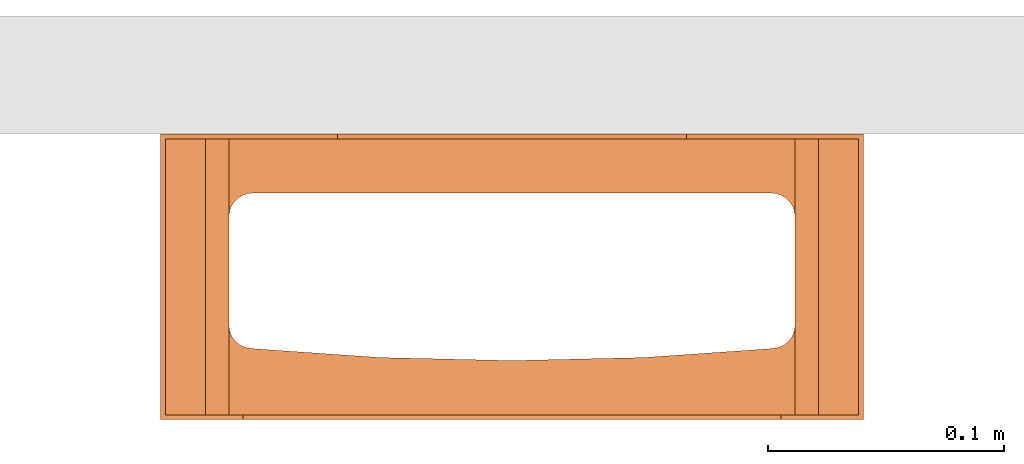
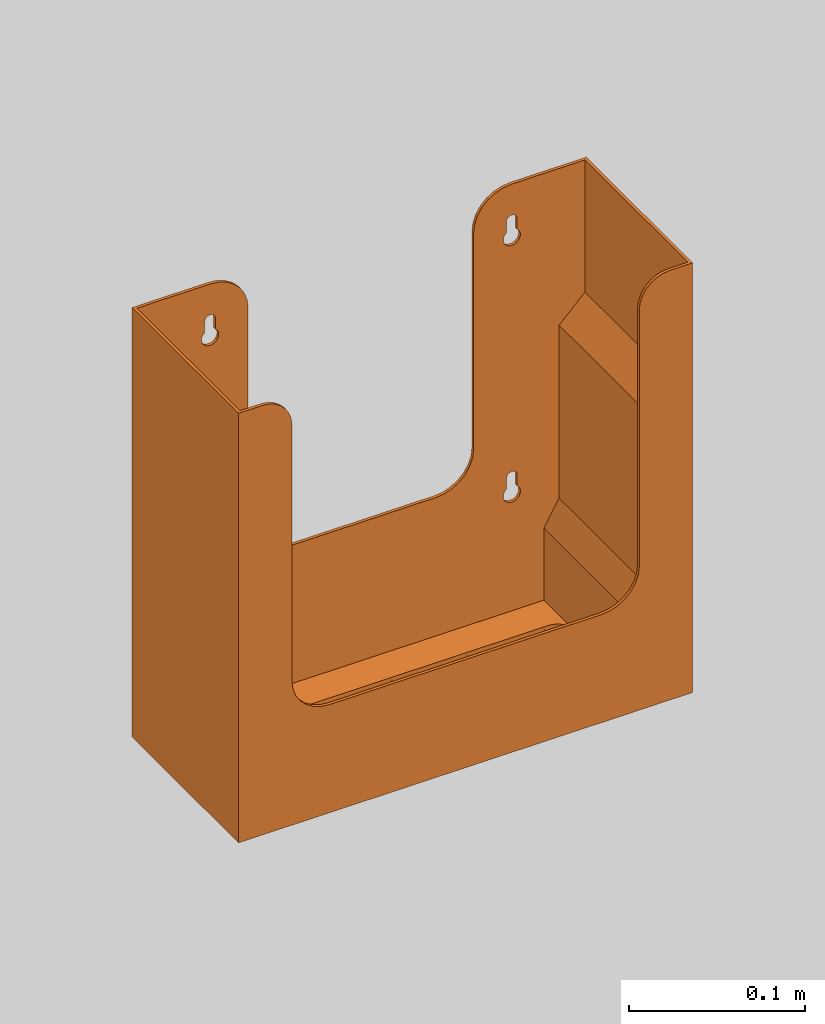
# One storey, part 2 of 2: 1 proxy, 1 opening.
"""IFC2X3 building model written with IfcOpenShell, lengths in millimetres."""

from ifc_helpers import new_model, entity, si_unit, converted_unit, derived_unit, direction, frame, frame_2d, origin, place, context, subcontext, project, spatial, polyline, circle_curve, parameter, trimmed, segment, composite_curve, outline, extrude, source, transform, mapped, element, save


model = new_model("IFC2X3")

# Units and contexts
model_context = context("Model", 3, precision=1e-05, world=origin(), true_north=direction((2.0, 6.12303176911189e-17, 1.0)))
context_of_model = context(None, 3, precision=1e-05, world=origin(), true_north=direction((2.0, 6.12303176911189e-17, 1.0)))
body_context = subcontext(model_context, "Body", "Model", "MODEL_VIEW")
ifc_project = project(units=[si_unit("LENGTHUNIT", "METRE", prefix="MILLI"), si_unit("AREAUNIT", "SQUARE_METRE"), si_unit("VOLUMEUNIT", "CUBIC_METRE"), converted_unit("PLANEANGLEUNIT", "DEGREE", entity("IfcRatioMeasure", 0.0174532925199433), si_unit("PLANEANGLEUNIT", "RADIAN"), dimensions=[0, 0, 0, 0, 0, 0, 0]), si_unit("MASSUNIT", "GRAM", prefix="KILO"), si_unit("TIMEUNIT", "SECOND"), si_unit("THERMODYNAMICTEMPERATUREUNIT", "KELVIN"), derived_unit("THERMALTRANSMITTANCEUNIT", [(si_unit("MASSUNIT", "GRAM", prefix="KILO"), 1), (si_unit("THERMODYNAMICTEMPERATUREUNIT", "KELVIN"), -1), (si_unit("TIMEUNIT", "SECOND"), -3)]), derived_unit("VOLUMETRICFLOWRATEUNIT", [(si_unit("LENGTHUNIT", "METRE"), 3), (si_unit("TIMEUNIT", "SECOND"), -1)]), si_unit("POWERUNIT", "WATT")], contexts=[model_context, context_of_model])

# Site, building, storey
site_placement = place(None, origin())
site = spatial("IfcSite", under=ifc_project, at=site_placement, Name="Default", CompositionType="ELEMENT")
building_placement = place(site_placement, origin())
building = spatial("IfcBuilding", under=site, at=building_placement, CompositionType="ELEMENT")
storey_placement = place(building_placement, origin())
storey = spatial("IfcBuildingStorey", under=building, at=storey_placement, Name="Level 1", CompositionType="ELEMENT", Elevation=0.0)

# Proxy, opening
shared_shape = source(origin(), body_context, "Body", "SweptSolid", [
    extrude(outline(polyline([(-84.825972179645, -12.3314362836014), (-34.8259721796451, -12.3314362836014), (-17.5054641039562, -2.33143628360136), (102.494535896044, -2.33143628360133), (119.488844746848, 14.6628725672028), (-84.825972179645, 14.6628725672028), (-84.825972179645, -12.3314362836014)])), frame((132.331436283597, -120.0, 89.829704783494), z_axis=(0.0, 1.0, 0.0), x_axis=(0.0, 0.0, 1.0)), (0.0, 0.0, 1.0), 120.0),
    extrude(outline(polyline([(-12.3314362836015, -84.8259721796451), (14.6628725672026, -84.8259721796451), (14.6628725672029, 119.488844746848), (-2.33143628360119, 102.494535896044), (-2.33143628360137, -17.5054641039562), (-12.3314362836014, -34.825972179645), (-12.3314362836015, -84.8259721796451)])), frame((-132.331436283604, -120.0, 89.8297047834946), z_axis=(0.0, 1.0, 0.0), x_axis=(-1.0, 0.0, 0.0)), (0.0, 0.0, 1.0), 120.0),
    extrude(outline(composite_curve([segment(trimmed(circle_curve(frame_2d((110.0, -22.9738729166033), x_axis=(1.0, 0.0)), 14.000000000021), [parameter(275.290444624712)], [parameter(360.0)], True, "PARAMETER"), True, "CONTINUOUS"), segment(polyline([(124.0, -22.9738729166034), (124.0, 22.9440535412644)]), True, "CONTINUOUS"), segment(trimmed(circle_curve(frame_2d((110.0, 22.9440535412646), x_axis=(1.0, 0.0)), 13.9999999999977), [parameter(360.0)], [parameter(89.9999999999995)], True, "PARAMETER"), True, "CONTINUOUS"), segment(polyline([(110.0, 36.9440535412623), (-110.0, 36.944053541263)]), True, "CONTINUOUS"), segment(trimmed(circle_curve(frame_2d((-110.0, 22.944053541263), x_axis=(1.0, 0.0)), 14.0000000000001), [parameter(89.9999999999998)], [parameter(180.0)], True, "PARAMETER"), True, "CONTINUOUS"), segment(polyline([(-124.0, 22.944053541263), (-124.0, -22.9738729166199)]), True, "CONTINUOUS"), segment(trimmed(circle_curve(frame_2d((-110.0, -22.9738729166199), x_axis=(1.0, 0.0)), 14.0000000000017), [parameter(180.0)], [parameter(264.709555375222)], True, "PARAMETER"), True, "CONTINUOUS"), segment(trimmed(circle_curve(frame_2d((0.0, 1164.94405350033), x_axis=(1.0, 0.0)), 1206.99999995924), [parameter(264.709555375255)], [parameter(275.290444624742)], True, "PARAMETER"), True, "CONTINUOUS")], self_intersect=False), holes=[composite_curve([segment(trimmed(circle_curve(frame_2d((110.0, 22.9440535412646), x_axis=(1.0, 0.0)), 9.99999999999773), [parameter(360.0)], [parameter(89.9999999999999)], True, "PARAMETER"), False, "CONTINUOUS"), segment(polyline([(120.0, 22.9440535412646), (120.0, -22.9738729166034)]), True, "CONTINUOUS"), segment(trimmed(circle_curve(frame_2d((110.0, -22.9738729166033), x_axis=(1.0, 0.0)), 10.000000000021), [parameter(275.2904446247)], [parameter(360.0)], True, "PARAMETER"), False, "CONTINUOUS"), segment(trimmed(circle_curve(frame_2d((0.0, 1164.94405350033), x_axis=(1.0, 0.0)), 1202.99999995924), [parameter(264.709555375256)], [parameter(275.290444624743)], True, "PARAMETER"), False, "CONTINUOUS"), segment(trimmed(circle_curve(frame_2d((-110.0, -22.9738729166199), x_axis=(1.0, 0.0)), 10.0000000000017), [parameter(180.0)], [parameter(264.709555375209)], True, "PARAMETER"), False, "CONTINUOUS"), segment(polyline([(-120.0, -22.9738729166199), (-120.0, 22.9440535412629)]), True, "CONTINUOUS"), segment(trimmed(circle_curve(frame_2d((-110.0, 22.944053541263), x_axis=(1.0, 0.0)), 10.0000000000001), [parameter(90.0000000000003)], [parameter(180.0)], True, "PARAMETER"), False, "CONTINUOUS"), segment(polyline([(-110.0, 32.9440535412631), (110.0, 32.9440535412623)]), True, "CONTINUOUS")], self_intersect=False)]), frame((0.0, -57.9440535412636, 0.0)), (0.0, 0.0, 1.0), 3.0),
    extrude(outline(polyline([(-149.5, -149.002845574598), (148.5, -149.002845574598), (148.5, -146.997154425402), (-147.5, -146.997154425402), (-147.5, 147.002845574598), (148.5, 147.002845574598), (148.5, 148.997154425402), (-149.5, 148.997154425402), (-149.5, -149.002845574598)])), frame((0.00284557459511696, -120.0, 152.503732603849), z_axis=(0.0, 1.0, 0.0), x_axis=(0.0, 0.0, 1.0)), (0.0, 0.0, 1.0), 120.0),
    extrude(outline(composite_curve([segment(polyline([(-149.0, -181.666666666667), (149.0, -181.666666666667)]), True, "CONTINUOUS"), segment(polyline([(149.0, -181.666666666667), (149.0, 116.333333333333)]), True, "CONTINUOUS"), segment(polyline([(149.0, 116.333333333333), (99.0, 116.333333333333)]), True, "CONTINUOUS"), segment(trimmed(circle_curve(frame_2d((99.0, 91.3333333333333), x_axis=(-1.0, 0.0)), 25.0), [parameter(270.0)], [parameter(1.01777749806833e-13)], True, "PARAMETER"), True, "CONTINUOUS"), segment(polyline([(74.0, 91.3333333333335), (74.0, -58.6666666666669)]), True, "CONTINUOUS"), segment(trimmed(circle_curve(frame_2d((49.0, -58.6666666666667), x_axis=(-1.0, 0.0)), 25.0), [parameter(90.0000000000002)], [parameter(180.0)], True, "PARAMETER"), False, "CONTINUOUS"), segment(polyline([(49.0, -83.6666666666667), (-49.0, -83.6666666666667)]), True, "CONTINUOUS"), segment(trimmed(circle_curve(frame_2d((-49.0, -58.6666666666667), x_axis=(-1.0, 0.0)), 25.0), [parameter(3.56222124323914e-13)], [parameter(90.0000000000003)], True, "PARAMETER"), False, "CONTINUOUS"), segment(polyline([(-74.0, -58.6666666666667), (-74.0, 91.3333333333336)]), True, "CONTINUOUS"), segment(trimmed(circle_curve(frame_2d((-99.0, 91.3333333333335), x_axis=(-1.0, 0.0)), 25.0), [parameter(180.0)], [parameter(270.0)], True, "PARAMETER"), True, "CONTINUOUS"), segment(polyline([(-99.0, 116.333333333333), (-149.0, 116.333333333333)]), True, "CONTINUOUS"), segment(polyline([(-149.0, 116.333333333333), (-149.0, -181.666666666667)]), True, "CONTINUOUS")], self_intersect=False), holes=[composite_curve([segment(trimmed(circle_curve(frame_2d((99.0, 79.4421900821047), x_axis=(-1.0, 0.0)), 5.63819476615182), [parameter(308.372098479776)], [parameter(59.7279897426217)], True, "PARAMETER"), False, "CONTINUOUS"), segment(polyline([(95.5, 83.8625113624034), (95.5, 91.4421900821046)]), True, "CONTINUOUS"), segment(trimmed(circle_curve(frame_2d((99.0, 91.4421900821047), x_axis=(-1.0, 0.0)), 3.5), [parameter(180.000000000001)], [parameter(1.67933287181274e-12)], True, "PARAMETER"), False, "CONTINUOUS"), segment(polyline([(102.5, 91.4421900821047), (102.5, 83.8625113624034)]), True, "CONTINUOUS"), segment(trimmed(circle_curve(frame_2d((99.0, 79.4421900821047), x_axis=(-1.0, 0.0)), 5.63819476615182), [parameter(59.7279897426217)], [parameter(231.627901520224)], True, "PARAMETER"), False, "CONTINUOUS")], self_intersect=False), composite_curve([segment(trimmed(circle_curve(frame_2d((-99.0, 79.4421900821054), x_axis=(-1.0, 0.0)), 5.63819476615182), [parameter(308.372098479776)], [parameter(59.7279897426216)], True, "PARAMETER"), False, "CONTINUOUS"), segment(polyline([(-102.5, 83.862511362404), (-102.5, 91.4421900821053)]), True, "CONTINUOUS"), segment(trimmed(circle_curve(frame_2d((-99.0, 91.4421900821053), x_axis=(-1.0, 0.0)), 3.5), [parameter(180.000000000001)], [parameter(1.67933287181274e-12)], True, "PARAMETER"), False, "CONTINUOUS"), segment(polyline([(-95.4999999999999, 91.4421900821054), (-95.4999999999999, 83.862511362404)]), True, "CONTINUOUS"), segment(trimmed(circle_curve(frame_2d((-99.0, 79.4421900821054), x_axis=(-1.0, 0.0)), 5.63819476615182), [parameter(59.7279897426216)], [parameter(231.627901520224)], True, "PARAMETER"), False, "CONTINUOUS")], self_intersect=False), composite_curve([segment(trimmed(circle_curve(frame_2d((99.0, -98.5578099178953), x_axis=(-1.0, 0.0)), 5.63819476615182), [parameter(308.372098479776)], [parameter(59.7279897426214)], True, "PARAMETER"), False, "CONTINUOUS"), segment(polyline([(95.5, -94.1374886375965), (95.5, -86.5578099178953)]), True, "CONTINUOUS"), segment(trimmed(circle_curve(frame_2d((99.0, -86.5578099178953), x_axis=(-1.0, 0.0)), 3.5), [parameter(180.000000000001)], [parameter(8.14221998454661e-13)], True, "PARAMETER"), False, "CONTINUOUS"), segment(polyline([(102.5, -86.5578099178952), (102.5, -94.1374886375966)]), True, "CONTINUOUS"), segment(trimmed(circle_curve(frame_2d((99.0, -98.5578099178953), x_axis=(-1.0, 0.0)), 5.63819476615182), [parameter(59.7279897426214)], [parameter(231.627901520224)], True, "PARAMETER"), False, "CONTINUOUS")], self_intersect=False), composite_curve([segment(trimmed(circle_curve(frame_2d((-99.0, -98.5578099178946), x_axis=(-1.0, 0.0)), 5.63819476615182), [parameter(308.372098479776)], [parameter(59.7279897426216)], True, "PARAMETER"), False, "CONTINUOUS"), segment(polyline([(-102.5, -94.1374886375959), (-102.5, -86.5578099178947)]), True, "CONTINUOUS"), segment(trimmed(circle_curve(frame_2d((-99.0, -86.5578099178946), x_axis=(-1.0, 0.0)), 3.5), [parameter(180.000000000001)], [parameter(8.14221998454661e-13)], True, "PARAMETER"), False, "CONTINUOUS"), segment(polyline([(-95.5, -86.5578099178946), (-95.4999999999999, -94.1374886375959)]), True, "CONTINUOUS"), segment(trimmed(circle_curve(frame_2d((-99.0, -98.5578099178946), x_axis=(-1.0, 0.0)), 5.63819476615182), [parameter(59.7279897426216)], [parameter(231.627901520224)], True, "PARAMETER"), False, "CONTINUOUS")], self_intersect=False)]), frame((0.0, -2.0, 184.670399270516), z_axis=(0.0, 1.0, 0.0), x_axis=(-1.0, 0.0, 0.0)), (0.0, 0.0, 1.0), 2.0),
    extrude(outline(composite_curve([segment(polyline([(-174.833333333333, -149.0), (123.166666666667, -149.0)]), True, "CONTINUOUS"), segment(polyline([(123.166666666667, -149.0), (123.166666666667, -134.0)]), True, "CONTINUOUS"), segment(trimmed(circle_curve(frame_2d((103.166666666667, -134.0), x_axis=(0.0, 1.0)), 20.0), [parameter(270.0)], [parameter(1.01777749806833e-13)], True, "PARAMETER"), True, "CONTINUOUS"), segment(polyline([(103.166666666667, -114.0), (-74.8333333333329, -114.0)]), True, "CONTINUOUS"), segment(trimmed(circle_curve(frame_2d((-74.8333333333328, -89.0), x_axis=(0.0, 1.0)), 25.0), [parameter(90.0000000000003)], [parameter(180.0)], True, "PARAMETER"), False, "CONTINUOUS"), segment(polyline([(-99.8333333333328, -89.0), (-99.8333333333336, 89.0)]), True, "CONTINUOUS"), segment(trimmed(circle_curve(frame_2d((-74.8333333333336, 89.0), x_axis=(0.0, 1.0)), 25.0), [parameter(3.05333249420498e-13)], [parameter(90.0000000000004)], True, "PARAMETER"), False, "CONTINUOUS"), segment(polyline([(-74.8333333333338, 114.0), (103.166666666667, 114.0)]), True, "CONTINUOUS"), segment(trimmed(circle_curve(frame_2d((103.166666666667, 134.0), x_axis=(0.0, 1.0)), 20.0), [parameter(180.0)], [parameter(270.0)], True, "PARAMETER"), True, "CONTINUOUS"), segment(polyline([(123.166666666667, 134.0), (123.166666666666, 149.0)]), True, "CONTINUOUS"), segment(polyline([(123.166666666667, 149.0), (-174.833333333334, 149.0)]), True, "CONTINUOUS"), segment(polyline([(-174.833333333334, 149.0), (-174.833333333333, -149.0)]), True, "CONTINUOUS")], self_intersect=False)), frame((0.0, -121.0, 177.837065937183), z_axis=(0.0, 1.0, 0.0), x_axis=(0.0, 0.0, 1.0)), (0.0, 0.0, 1.0), 2.0),
])
proxy_placement = place(storey_placement, frame((-0.747736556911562, 3952.69853342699, 357.907158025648)))
proxy = element("IfcBuildingElementProxy", 1, at=proxy_placement, inside=storey, Name="DP3502:DP3502 Dolphin Paper Towel Dispenser for Mounting Behind Mirror", ObjectType="DP3502 Dolphin Paper Towel Dispenser for Mounting Behind Mirror", CompositionType="ELEMENT", context=body_context, shape_type="MappedRepresentation", body=[
    mapped(shared_shape, transform((0.0, 0.0, 0.0), scale=1.0)),
])
opening_placement = place(storey_placement, frame((-0.747736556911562, 3952.69853342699, 357.907158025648)))
element("IfcOpeningElement", 2, at=opening_placement, cuts=proxy, Name="DP3502:DP3502 Dolphin Paper Towel Dispenser for Mounting Behind Mirror:1", ObjectType="Opening", context=body_context, shape_type="SweptSolid", body=[
    extrude(outline(composite_curve([segment(polyline([(-110.0, -29.2873897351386), (0.0, -29.2873897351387)]), True, "CONTINUOUS"), segment(polyline([(0.0, -29.2873897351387), (110.0, -29.2873897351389)]), True, "CONTINUOUS"), segment(trimmed(circle_curve(frame_2d((110.0, -19.2873897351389), x_axis=(-1.0, 0.0)), 10.0), [parameter(90.0000000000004)], [parameter(180.0)], True, "PARAMETER"), True, "CONTINUOUS"), segment(polyline([(120.0, -19.2873897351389), (120.0, 26.6305367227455)]), True, "CONTINUOUS"), segment(trimmed(circle_curve(frame_2d((110.0, 26.6305367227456), x_axis=(-1.0, 0.0)), 10.0), [parameter(180.0)], [parameter(264.709555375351)], True, "PARAMETER"), True, "CONTINUOUS"), segment(trimmed(circle_curve(frame_2d((0.0, -1161.28738973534), x_axis=(-1.0, 0.0)), 1203.0000000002), [parameter(264.709555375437)], [parameter(275.290444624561)], True, "PARAMETER"), True, "CONTINUOUS"), segment(trimmed(circle_curve(frame_2d((-110.0, 26.6305367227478), x_axis=(-1.0, 0.0)), 10.0), [parameter(275.290444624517)], [parameter(359.999999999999)], True, "PARAMETER"), True, "CONTINUOUS"), segment(polyline([(-120.0, 26.6305367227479), (-120.0, -19.2873897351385)]), True, "CONTINUOUS"), segment(trimmed(circle_curve(frame_2d((-110.0, -19.2873897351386), x_axis=(-1.0, 0.0)), 10.0), [parameter(7.12444248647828e-13)], [parameter(90.0000000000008)], True, "PARAMETER"), True, "CONTINUOUS")], self_intersect=False)), frame((0.0, -54.2873897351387, 3.00373260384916), z_axis=(0.0, 0.0, 1.0), x_axis=(-1.0, 0.0, 0.0)), (0.0, 0.0, 1.0), 1.99999999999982),
])

save(model, "model.ifc")
